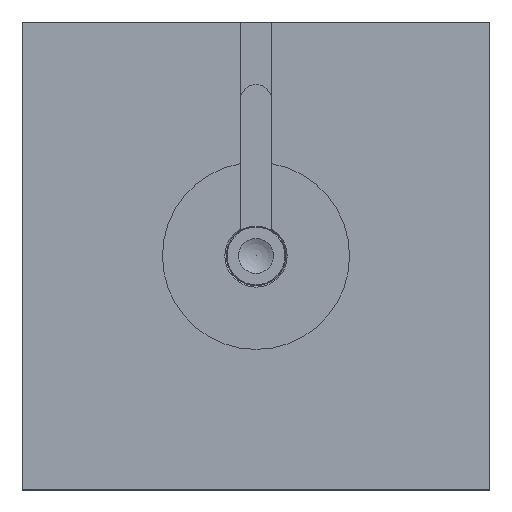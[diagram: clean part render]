
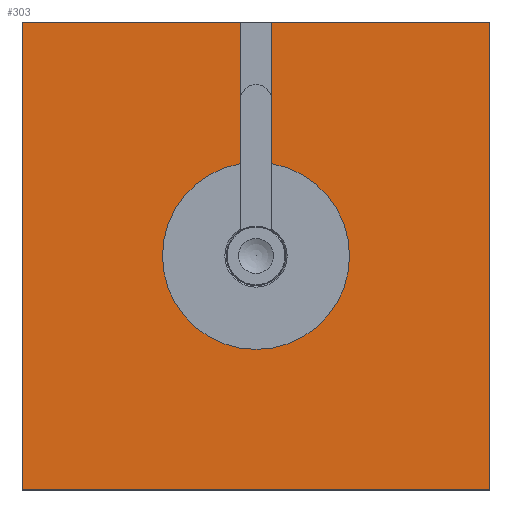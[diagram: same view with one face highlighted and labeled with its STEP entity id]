
A CAD part, top view. The second image highlights one B-rep face of the part: STEP entity #303.
In plain terms, the highlighted planar face has unit normal (0, 0, 1).
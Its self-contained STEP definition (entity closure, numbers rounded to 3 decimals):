
#303 = ADVANCED_FACE( '', ( #708 ), #709, .T. );
#708 = FACE_OUTER_BOUND( '', #1270, .T. );
#709 = PLANE( '', #1271 );
#1270 = EDGE_LOOP( '', ( #2073, #2074, #2075, #2076, #2077, #2078, #2079, #2080 ) );
#1271 = AXIS2_PLACEMENT_3D( '', #2081, #2082, #2083 );
#2073 = ORIENTED_EDGE( '', *, *, #3112, .T. );
#2074 = ORIENTED_EDGE( '', *, *, #3113, .T. );
#2075 = ORIENTED_EDGE( '', *, *, #3114, .T. );
#2076 = ORIENTED_EDGE( '', *, *, #3115, .T. );
#2077 = ORIENTED_EDGE( '', *, *, #3065, .T. );
#2078 = ORIENTED_EDGE( '', *, *, #3006, .T. );
#2079 = ORIENTED_EDGE( '', *, *, #3116, .T. );
#2080 = ORIENTED_EDGE( '', *, *, #2997, .T. );
#2081 = CARTESIAN_POINT( '', ( -150., -150., 0. ) );
#2082 = DIRECTION( '', ( 0., 0., 1. ) );
#2083 = DIRECTION( '', ( 0., -1., 0. ) );
#2997 = EDGE_CURVE( '', #3537, #3535, #3538, .T. );
#3006 = EDGE_CURVE( '', #3553, #3554, #3555, .T. );
#3065 = EDGE_CURVE( '', #3657, #3553, #3658, .T. );
#3112 = EDGE_CURVE( '', #3535, #3727, #3728, .T. );
#3113 = EDGE_CURVE( '', #3727, #3729, #3730, .T. );
#3114 = EDGE_CURVE( '', #3729, #3731, #3732, .T. );
#3115 = EDGE_CURVE( '', #3731, #3657, #3733, .T. );
#3116 = EDGE_CURVE( '', #3554, #3537, #3734, .T. );
#3535 = VERTEX_POINT( '', #4277 );
#3537 = VERTEX_POINT( '', #4280 );
#3538 = LINE( '', #4281, #4282 );
#3553 = VERTEX_POINT( '', #4306 );
#3554 = VERTEX_POINT( '', #4307 );
#3555 = LINE( '', #4308, #4309 );
#3657 = VERTEX_POINT( '', #4454 );
#3658 = LINE( '', #4455, #4456 );
#3727 = VERTEX_POINT( '', #4608 );
#3728 = CIRCLE( '', #4609, 60. );
#3729 = VERTEX_POINT( '', #4610 );
#3730 = LINE( '', #4611, #4612 );
#3731 = VERTEX_POINT( '', #4613 );
#3732 = LINE( '', #4614, #4615 );
#3733 = LINE( '', #4616, #4617 );
#3734 = LINE( '', #4618, #4619 );
#4277 = CARTESIAN_POINT( '', ( 10., 59.161, 0. ) );
#4280 = CARTESIAN_POINT( '', ( 10., 150., 0. ) );
#4281 = CARTESIAN_POINT( '', ( 10., 150., 0. ) );
#4282 = VECTOR( '', #5190, 1000. );
#4306 = CARTESIAN_POINT( '', ( 150., -150., 0. ) );
#4307 = CARTESIAN_POINT( '', ( 150., 150., 0. ) );
#4308 = CARTESIAN_POINT( '', ( 150., -150., 0. ) );
#4309 = VECTOR( '', #5197, 1000. );
#4454 = CARTESIAN_POINT( '', ( -150., -150., 0. ) );
#4455 = CARTESIAN_POINT( '', ( -150., -150., 0. ) );
#4456 = VECTOR( '', #5292, 1000. );
#4608 = CARTESIAN_POINT( '', ( -10., 59.161, 0. ) );
#4609 = AXIS2_PLACEMENT_3D( '', #5332, #5333, #5334 );
#4610 = CARTESIAN_POINT( '', ( -10., 150., 0. ) );
#4611 = CARTESIAN_POINT( '', ( -10., 0., 0. ) );
#4612 = VECTOR( '', #5335, 1000. );
#4613 = CARTESIAN_POINT( '', ( -150., 150., 0. ) );
#4614 = CARTESIAN_POINT( '', ( 150., 150., 0. ) );
#4615 = VECTOR( '', #5336, 1000. );
#4616 = CARTESIAN_POINT( '', ( -150., 150., 0. ) );
#4617 = VECTOR( '', #5337, 1000. );
#4618 = CARTESIAN_POINT( '', ( 150., 150., 0. ) );
#4619 = VECTOR( '', #5338, 1000. );
#5190 = DIRECTION( '', ( 0., -1., 0. ) );
#5197 = DIRECTION( '', ( 0., 1., 0. ) );
#5292 = DIRECTION( '', ( 1., 0., 0. ) );
#5332 = CARTESIAN_POINT( '', ( 0., 0., 0. ) );
#5333 = DIRECTION( '', ( 0., 0., -1. ) );
#5334 = DIRECTION( '', ( -1., 0., 0. ) );
#5335 = DIRECTION( '', ( 0., 1., 0. ) );
#5336 = DIRECTION( '', ( -1., 0., 0. ) );
#5337 = DIRECTION( '', ( 0., -1., 0. ) );
#5338 = DIRECTION( '', ( -1., 0., 0. ) );
